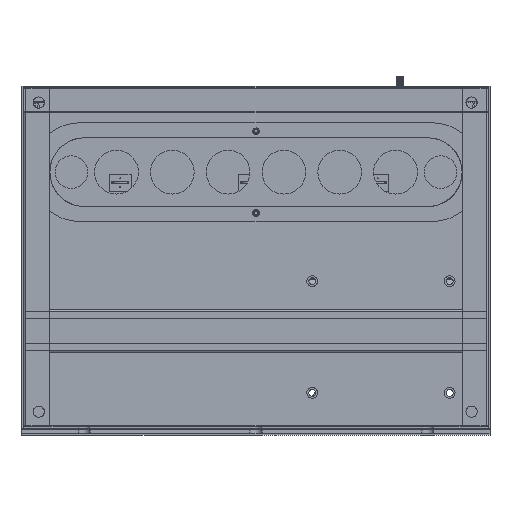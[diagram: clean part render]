
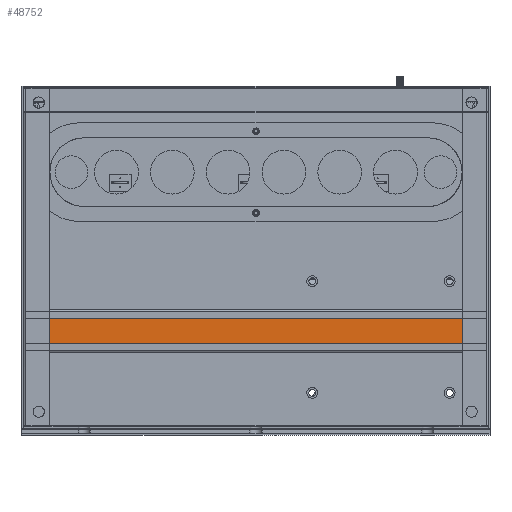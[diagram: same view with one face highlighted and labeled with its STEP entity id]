
A CAD part, top view. The second image highlights one B-rep face of the part: STEP entity #48752.
In plain terms, the highlighted planar face has unit normal (0, 0, 1).
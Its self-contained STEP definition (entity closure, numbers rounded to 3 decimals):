
#6106 = DIRECTION ( 'NONE',  ( 1., 0., 0. ) ) ;
#7709 = DIRECTION ( 'NONE',  ( 0., 0., -1. ) ) ;
#8276 = EDGE_LOOP ( 'NONE', ( #65126, #10445, #68204, #55485 ) ) ;
#10445 = ORIENTED_EDGE ( 'NONE', *, *, #48549, .F. ) ;
#13766 = DIRECTION ( 'NONE',  ( -1., 0., 0. ) ) ;
#16600 = AXIS2_PLACEMENT_3D ( 'NONE', #111058, #7709, #68006 ) ;
#22153 = VECTOR ( 'NONE', #53306, 1000. ) ;
#25640 = LINE ( 'NONE', #31626, #68898 ) ;
#28625 = FACE_OUTER_BOUND ( 'NONE', #8276, .T. ) ;
#31626 = CARTESIAN_POINT ( 'NONE',  ( 268.5, 22.5, -33. ) ) ;
#32918 = CARTESIAN_POINT ( 'NONE',  ( -268.5, 22.5, -33. ) ) ;
#33849 = CARTESIAN_POINT ( 'NONE',  ( -268.5, -22.5, -33. ) ) ;
#33960 = VERTEX_POINT ( 'NONE', #32918 ) ;
#34254 = VERTEX_POINT ( 'NONE', #36679 ) ;
#36679 = CARTESIAN_POINT ( 'NONE',  ( 268.5, 22.5, -33. ) ) ;
#42583 = DIRECTION ( 'NONE',  ( 0., 1., 0. ) ) ;
#45096 = LINE ( 'NONE', #105044, #22153 ) ;
#48549 = EDGE_CURVE ( 'NONE', #53644, #63414, #73310, .T. ) ;
#48752 = ADVANCED_FACE ( 'NONE', ( #28625 ), #85028, .F. ) ;
#51812 = CARTESIAN_POINT ( 'NONE',  ( -268.5, -22.5, -33. ) ) ;
#53306 = DIRECTION ( 'NONE',  ( 0., -1., 0. ) ) ;
#53644 = VERTEX_POINT ( 'NONE', #75795 ) ;
#55485 = ORIENTED_EDGE ( 'NONE', *, *, #74013, .F. ) ;
#56385 = LINE ( 'NONE', #33849, #76689 ) ;
#56722 = CARTESIAN_POINT ( 'NONE',  ( 268.5, -22.5, -33. ) ) ;
#58484 = EDGE_CURVE ( 'NONE', #63414, #33960, #56385, .T. ) ;
#63414 = VERTEX_POINT ( 'NONE', #51812 ) ;
#65126 = ORIENTED_EDGE ( 'NONE', *, *, #58484, .F. ) ;
#68006 = DIRECTION ( 'NONE',  ( 0., -1., 0. ) ) ;
#68204 = ORIENTED_EDGE ( 'NONE', *, *, #78550, .F. ) ;
#68898 = VECTOR ( 'NONE', #6106, 1000. ) ;
#73310 = LINE ( 'NONE', #56722, #93567 ) ;
#74013 = EDGE_CURVE ( 'NONE', #33960, #34254, #25640, .T. ) ;
#75795 = CARTESIAN_POINT ( 'NONE',  ( 268.5, -22.5, -33. ) ) ;
#76689 = VECTOR ( 'NONE', #42583, 1000. ) ;
#78550 = EDGE_CURVE ( 'NONE', #34254, #53644, #45096, .T. ) ;
#85028 = PLANE ( 'NONE',  #16600 ) ;
#93567 = VECTOR ( 'NONE', #13766, 1000. ) ;
#105044 = CARTESIAN_POINT ( 'NONE',  ( 268.5, -22.5, -33. ) ) ;
#111058 = CARTESIAN_POINT ( 'NONE',  ( 268.5, -22.5, -33. ) ) ;
